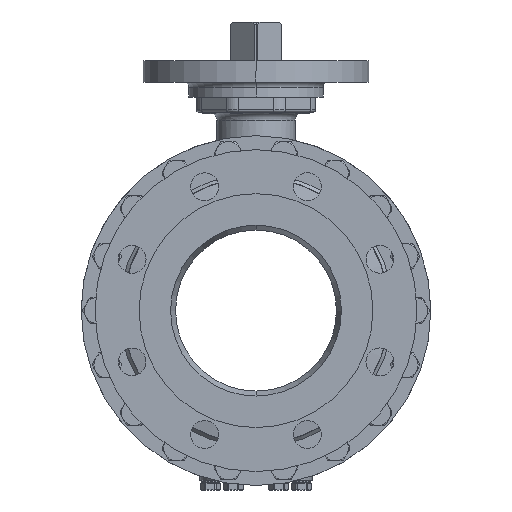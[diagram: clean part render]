
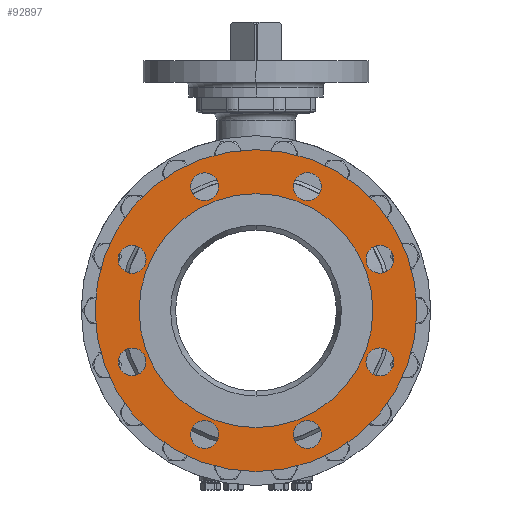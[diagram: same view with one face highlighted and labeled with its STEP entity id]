
A CAD part, left-side view. The second image highlights one B-rep face of the part: STEP entity #92897.
In plain terms, the highlighted planar face has unit normal (-1, 0, 0).
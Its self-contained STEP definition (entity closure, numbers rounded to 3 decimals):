
#13693=CARTESIAN_POINT('',(-198.5,0.,0.));
#13694=DIRECTION('',(1.,0.,0.));
#13695=DIRECTION('',(0.,0.,1.));
#13696=AXIS2_PLACEMENT_3D('',#13693,#13694,#13695);
#13702=CARTESIAN_POINT('',(-198.5,0.,0.));
#13703=DIRECTION('',(-1.,0.,0.));
#13704=DIRECTION('',(0.,0.,1.));
#13705=AXIS2_PLACEMENT_3D('',#13702,#13703,#13704);
#13711=CARTESIAN_POINT('',(-198.5,0.,0.));
#13712=DIRECTION('',(-1.,0.,0.));
#13713=DIRECTION('',(0.,0.,1.));
#13714=AXIS2_PLACEMENT_3D('',#13711,#13712,#13713);
#13716=CARTESIAN_POINT('',(-198.5,0.,0.));
#13717=DIRECTION('',(-1.,0.,0.));
#13718=DIRECTION('',(0.,0.,-1.));
#13719=AXIS2_PLACEMENT_3D('',#13716,#13717,#13718);
#13721=CARTESIAN_POINT('',(-198.5,-47.835,115.485));
#13722=DIRECTION('',(-1.,0.,0.));
#13723=DIRECTION('',(0.,-1.,0.));
#13724=AXIS2_PLACEMENT_3D('',#13721,#13722,#13723);
#13726=CARTESIAN_POINT('',(-198.5,-47.835,115.485));
#13727=DIRECTION('',(-1.,0.,0.));
#13728=DIRECTION('',(0.,1.,0.));
#13729=AXIS2_PLACEMENT_3D('',#13726,#13727,#13728);
#13731=CARTESIAN_POINT('',(-198.5,47.835,115.485));
#13732=DIRECTION('',(-1.,0.,0.));
#13733=DIRECTION('',(0.,-0.707,0.707));
#13734=AXIS2_PLACEMENT_3D('',#13731,#13732,#13733);
#13736=CARTESIAN_POINT('',(-198.5,47.835,115.485));
#13737=DIRECTION('',(-1.,0.,0.));
#13738=DIRECTION('',(0.,0.707,-0.707));
#13739=AXIS2_PLACEMENT_3D('',#13736,#13737,#13738);
#13741=CARTESIAN_POINT('',(-198.5,115.485,47.835));
#13742=DIRECTION('',(-1.,0.,0.));
#13743=DIRECTION('',(0.,0.,1.));
#13744=AXIS2_PLACEMENT_3D('',#13741,#13742,#13743);
#13746=CARTESIAN_POINT('',(-198.5,115.485,47.835));
#13747=DIRECTION('',(-1.,0.,0.));
#13748=DIRECTION('',(0.,0.,-1.));
#13749=AXIS2_PLACEMENT_3D('',#13746,#13747,#13748);
#13751=CARTESIAN_POINT('',(-198.5,115.485,-47.835));
#13752=DIRECTION('',(-1.,0.,0.));
#13753=DIRECTION('',(0.,0.707,0.707));
#13754=AXIS2_PLACEMENT_3D('',#13751,#13752,#13753);
#13756=CARTESIAN_POINT('',(-198.5,115.485,-47.835));
#13757=DIRECTION('',(-1.,0.,0.));
#13758=DIRECTION('',(0.,-0.707,-0.707));
#13759=AXIS2_PLACEMENT_3D('',#13756,#13757,#13758);
#13761=CARTESIAN_POINT('',(-198.5,47.835,-115.485));
#13762=DIRECTION('',(-1.,0.,0.));
#13763=DIRECTION('',(0.,1.,0.));
#13764=AXIS2_PLACEMENT_3D('',#13761,#13762,#13763);
#13766=CARTESIAN_POINT('',(-198.5,47.835,-115.485));
#13767=DIRECTION('',(-1.,0.,0.));
#13768=DIRECTION('',(0.,-1.,0.));
#13769=AXIS2_PLACEMENT_3D('',#13766,#13767,#13768);
#13771=CARTESIAN_POINT('',(-198.5,-47.835,-115.485));
#13772=DIRECTION('',(-1.,0.,0.));
#13773=DIRECTION('',(0.,0.707,-0.707));
#13774=AXIS2_PLACEMENT_3D('',#13771,#13772,#13773);
#13776=CARTESIAN_POINT('',(-198.5,-47.835,-115.485));
#13777=DIRECTION('',(-1.,0.,0.));
#13778=DIRECTION('',(0.,-0.707,0.707));
#13779=AXIS2_PLACEMENT_3D('',#13776,#13777,#13778);
#13781=CARTESIAN_POINT('',(-198.5,-115.485,-47.835));
#13782=DIRECTION('',(-1.,0.,0.));
#13783=DIRECTION('',(0.,0.,-1.));
#13784=AXIS2_PLACEMENT_3D('',#13781,#13782,#13783);
#13786=CARTESIAN_POINT('',(-198.5,-115.485,-47.835));
#13787=DIRECTION('',(-1.,0.,0.));
#13788=DIRECTION('',(0.,0.,1.));
#13789=AXIS2_PLACEMENT_3D('',#13786,#13787,#13788);
#13791=CARTESIAN_POINT('',(-198.5,-115.485,47.835));
#13792=DIRECTION('',(-1.,0.,0.));
#13793=DIRECTION('',(0.,-0.707,-0.707));
#13794=AXIS2_PLACEMENT_3D('',#13791,#13792,#13793);
#13796=CARTESIAN_POINT('',(-198.5,-115.485,47.835));
#13797=DIRECTION('',(-1.,0.,0.));
#13798=DIRECTION('',(0.,0.707,0.707));
#13799=AXIS2_PLACEMENT_3D('',#13796,#13797,#13798);
#57817=CARTESIAN_POINT('',(-198.5,0.,109.));
#57818=CARTESIAN_POINT('',(-198.5,0.,-109.));
#57819=VERTEX_POINT('',#57817);
#57820=VERTEX_POINT('',#57818);
#57821=CARTESIAN_POINT('',(-198.5,0.,150.));
#57822=CARTESIAN_POINT('',(-198.5,0.,-150.));
#57823=VERTEX_POINT('',#57821);
#57824=VERTEX_POINT('',#57822);
#57833=CARTESIAN_POINT('',(-198.5,-60.835,115.485));
#57834=CARTESIAN_POINT('',(-198.5,-34.835,115.485));
#57835=VERTEX_POINT('',#57833);
#57836=VERTEX_POINT('',#57834);
#57841=CARTESIAN_POINT('',(-198.5,38.643,124.677));
#57842=CARTESIAN_POINT('',(-198.5,57.028,106.293));
#57843=VERTEX_POINT('',#57841);
#57844=VERTEX_POINT('',#57842);
#57849=CARTESIAN_POINT('',(-198.5,115.485,60.835));
#57850=CARTESIAN_POINT('',(-198.5,115.485,34.835));
#57851=VERTEX_POINT('',#57849);
#57852=VERTEX_POINT('',#57850);
#57857=CARTESIAN_POINT('',(-198.5,124.677,-38.643));
#57858=CARTESIAN_POINT('',(-198.5,106.293,-57.028));
#57859=VERTEX_POINT('',#57857);
#57860=VERTEX_POINT('',#57858);
#57865=CARTESIAN_POINT('',(-198.5,60.835,-115.485));
#57866=CARTESIAN_POINT('',(-198.5,34.835,-115.485));
#57867=VERTEX_POINT('',#57865);
#57868=VERTEX_POINT('',#57866);
#57873=CARTESIAN_POINT('',(-198.5,-38.643,-124.677));
#57874=CARTESIAN_POINT('',(-198.5,-57.028,-106.293));
#57875=VERTEX_POINT('',#57873);
#57876=VERTEX_POINT('',#57874);
#57881=CARTESIAN_POINT('',(-198.5,-115.485,-60.835));
#57882=CARTESIAN_POINT('',(-198.5,-115.485,-34.835));
#57883=VERTEX_POINT('',#57881);
#57884=VERTEX_POINT('',#57882);
#57889=CARTESIAN_POINT('',(-198.5,-124.677,38.643));
#57890=CARTESIAN_POINT('',(-198.5,-106.293,57.028));
#57891=VERTEX_POINT('',#57889);
#57892=VERTEX_POINT('',#57890);
#92834=CARTESIAN_POINT('',(-198.5,0.,0.));
#92835=DIRECTION('',(1.,0.,0.));
#92836=DIRECTION('',(0.,0.,1.));
#92837=AXIS2_PLACEMENT_3D('',#92834,#92835,#92836);
#92838=PLANE('',#92837);
#92840=ORIENTED_EDGE('',*,*,#92839,.F.);
#92842=ORIENTED_EDGE('',*,*,#92841,.F.);
#92843=EDGE_LOOP('',(#92840,#92842));
#92844=FACE_OUTER_BOUND('',#92843,.F.);
#92845=ORIENTED_EDGE('',*,*,#92828,.T.);
#92846=ORIENTED_EDGE('',*,*,#92814,.F.);
#92847=EDGE_LOOP('',(#92845,#92846));
#92848=FACE_BOUND('',#92847,.F.);
#92850=ORIENTED_EDGE('',*,*,#92849,.T.);
#92852=ORIENTED_EDGE('',*,*,#92851,.T.);
#92853=EDGE_LOOP('',(#92850,#92852));
#92854=FACE_BOUND('',#92853,.F.);
#92856=ORIENTED_EDGE('',*,*,#92855,.T.);
#92858=ORIENTED_EDGE('',*,*,#92857,.T.);
#92859=EDGE_LOOP('',(#92856,#92858));
#92860=FACE_BOUND('',#92859,.F.);
#92862=ORIENTED_EDGE('',*,*,#92861,.T.);
#92864=ORIENTED_EDGE('',*,*,#92863,.T.);
#92865=EDGE_LOOP('',(#92862,#92864));
#92866=FACE_BOUND('',#92865,.F.);
#92868=ORIENTED_EDGE('',*,*,#92867,.T.);
#92870=ORIENTED_EDGE('',*,*,#92869,.T.);
#92871=EDGE_LOOP('',(#92868,#92870));
#92872=FACE_BOUND('',#92871,.F.);
#92874=ORIENTED_EDGE('',*,*,#92873,.T.);
#92876=ORIENTED_EDGE('',*,*,#92875,.T.);
#92877=EDGE_LOOP('',(#92874,#92876));
#92878=FACE_BOUND('',#92877,.F.);
#92880=ORIENTED_EDGE('',*,*,#92879,.T.);
#92882=ORIENTED_EDGE('',*,*,#92881,.T.);
#92883=EDGE_LOOP('',(#92880,#92882));
#92884=FACE_BOUND('',#92883,.F.);
#92886=ORIENTED_EDGE('',*,*,#92885,.T.);
#92888=ORIENTED_EDGE('',*,*,#92887,.T.);
#92889=EDGE_LOOP('',(#92886,#92888));
#92890=FACE_BOUND('',#92889,.F.);
#92892=ORIENTED_EDGE('',*,*,#92891,.T.);
#92894=ORIENTED_EDGE('',*,*,#92893,.T.);
#92895=EDGE_LOOP('',(#92892,#92894));
#92896=FACE_BOUND('',#92895,.F.);
#92897=ADVANCED_FACE('',(#92844,#92848,#92854,#92860,#92866,#92872,#92878,
#92884,#92890,#92896),#92838,.F.);
#13697=CIRCLE('',#13696,109.);
#13706=CIRCLE('',#13705,109.);
#13715=CIRCLE('',#13714,150.);
#13720=CIRCLE('',#13719,150.);
#13725=CIRCLE('',#13724,13.);
#13730=CIRCLE('',#13729,13.);
#13735=CIRCLE('',#13734,13.);
#13740=CIRCLE('',#13739,13.);
#13745=CIRCLE('',#13744,13.);
#13750=CIRCLE('',#13749,13.);
#13755=CIRCLE('',#13754,13.);
#13760=CIRCLE('',#13759,13.);
#13765=CIRCLE('',#13764,13.);
#13770=CIRCLE('',#13769,13.);
#13775=CIRCLE('',#13774,13.);
#13780=CIRCLE('',#13779,13.);
#13785=CIRCLE('',#13784,13.);
#13790=CIRCLE('',#13789,13.);
#13795=CIRCLE('',#13794,13.);
#13800=CIRCLE('',#13799,13.);
#92814=EDGE_CURVE('',#57819,#57820,#13697,.T.);
#92828=EDGE_CURVE('',#57819,#57820,#13706,.T.);
#92839=EDGE_CURVE('',#57823,#57824,#13715,.T.);
#92841=EDGE_CURVE('',#57824,#57823,#13720,.T.);
#92849=EDGE_CURVE('',#57835,#57836,#13725,.T.);
#92851=EDGE_CURVE('',#57836,#57835,#13730,.T.);
#92855=EDGE_CURVE('',#57843,#57844,#13735,.T.);
#92857=EDGE_CURVE('',#57844,#57843,#13740,.T.);
#92861=EDGE_CURVE('',#57851,#57852,#13745,.T.);
#92863=EDGE_CURVE('',#57852,#57851,#13750,.T.);
#92867=EDGE_CURVE('',#57859,#57860,#13755,.T.);
#92869=EDGE_CURVE('',#57860,#57859,#13760,.T.);
#92873=EDGE_CURVE('',#57867,#57868,#13765,.T.);
#92875=EDGE_CURVE('',#57868,#57867,#13770,.T.);
#92879=EDGE_CURVE('',#57875,#57876,#13775,.T.);
#92881=EDGE_CURVE('',#57876,#57875,#13780,.T.);
#92885=EDGE_CURVE('',#57883,#57884,#13785,.T.);
#92887=EDGE_CURVE('',#57884,#57883,#13790,.T.);
#92891=EDGE_CURVE('',#57891,#57892,#13795,.T.);
#92893=EDGE_CURVE('',#57892,#57891,#13800,.T.);
